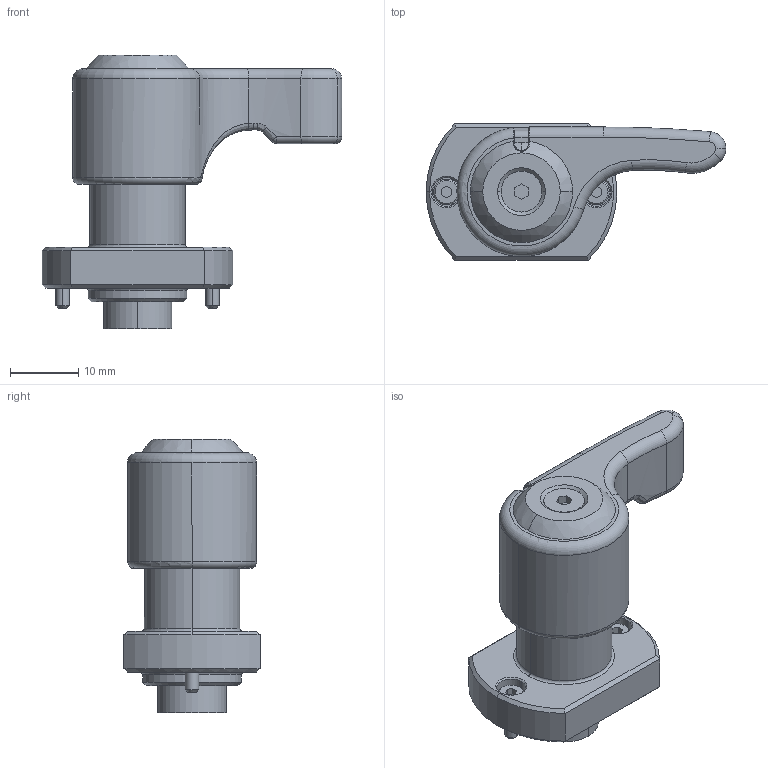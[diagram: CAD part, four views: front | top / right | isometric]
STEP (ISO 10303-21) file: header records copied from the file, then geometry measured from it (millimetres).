
FILE_DESCRIPTION (( 'STEP AP203' ), '1' );
FILE_NAME ('qcps0828-6-og-d.STEP', '2023-04-07T01:55:28', ( '' ), ( '' ), 'SwSTEP 2.0', 'SolidWorks 2021', '' );
FILE_SCHEMA (( 'CONFIG_CONTROL_DESIGN' ));
Length unit declared in the file: millimetre
Products named in the file (4): qcps0828-6-og-d_03_蹬怮椔; qcps0828-6-og-d; qcps0828-6-og-d_02_蹬怮椔; qcps0828-6-og-d_01_蹬怮椔
Assembly tree (3 placements, depth 2):
  qcps0828-6-og-d
    qcps0828-6-og-d_01_蹬怮椔
    qcps0828-6-og-d_02_蹬怮椔
    qcps0828-6-og-d_03_蹬怮椔
Bounding box: 44 x 20 x 40.21 mm (x, y, z)
Volume: 9643.5 mm3; surface area: 7872.9 mm2
Topology: 3 solids, 3 shells, 372 faces, 867 edges, 540 vertices
Faces by surface type: plane 146, cylinder 111, cone 41, torus 37, bspline 26, sphere 11
Entity records: 11955 total; most frequent: CARTESIAN_POINT 3014, DIRECTION 1860, ORIENTED_EDGE 1728, EDGE_CURVE 864, AXIS2_PLACEMENT_3D 725, VERTEX_POINT 540, EDGE_LOOP 416, LINE 410
